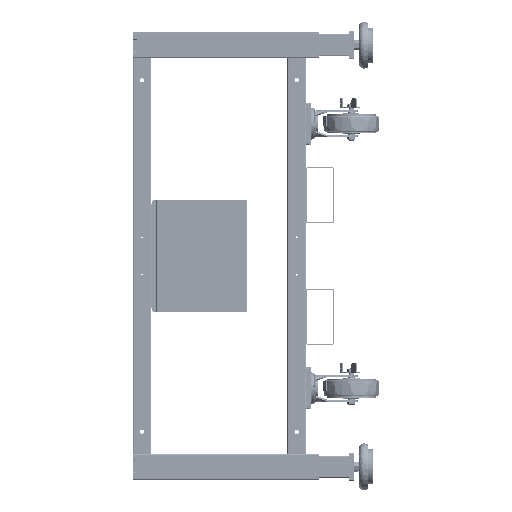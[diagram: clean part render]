
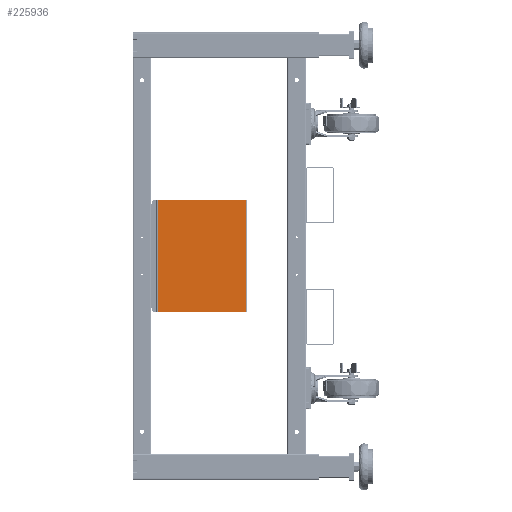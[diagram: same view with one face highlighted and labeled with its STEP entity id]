
A CAD part, front view. The second image highlights one B-rep face of the part: STEP entity #225936.
In plain terms, the highlighted planar face has unit normal (0, -1, 0).
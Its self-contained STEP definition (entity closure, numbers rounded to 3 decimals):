
#6474 = DIRECTION ( 'NONE',  ( 1., 0., 0. ) ) ;
#20639 = VERTEX_POINT ( 'NONE', #238128 ) ;
#23203 = CARTESIAN_POINT ( 'NONE',  ( -180.406, 926.74, 1182.914 ) ) ;
#24284 = VERTEX_POINT ( 'NONE', #45439 ) ;
#26677 = LINE ( 'NONE', #84985, #98543 ) ;
#34915 = DIRECTION ( 'NONE',  ( 0., 1., 0. ) ) ;
#38806 = CARTESIAN_POINT ( 'NONE',  ( -96.242, 926.74, 1182.914 ) ) ;
#43692 = CARTESIAN_POINT ( 'NONE',  ( -180.406, 926.74, 878.114 ) ) ;
#45439 = CARTESIAN_POINT ( 'NONE',  ( -96.242, 926.74, 878.114 ) ) ;
#46485 = DIRECTION ( 'NONE',  ( 0., 0., -1. ) ) ;
#53419 = FACE_OUTER_BOUND ( 'NONE', #58200, .T. ) ;
#56745 = DIRECTION ( 'NONE',  ( 1., 0., 0. ) ) ;
#58200 = EDGE_LOOP ( 'NONE', ( #122505, #223956, #190007, #211722 ) ) ;
#59215 = LINE ( 'NONE', #23203, #159762 ) ;
#72617 = VERTEX_POINT ( 'NONE', #177277 ) ;
#84985 = CARTESIAN_POINT ( 'NONE',  ( 145.373, 926.74, 1182.914 ) ) ;
#92296 = EDGE_CURVE ( 'NONE', #72617, #217315, #59215, .T. ) ;
#93762 = VECTOR ( 'NONE', #187934, 1000. ) ;
#94388 = PLANE ( 'NONE',  #163420 ) ;
#98543 = VECTOR ( 'NONE', #46485, 1000. ) ;
#122505 = ORIENTED_EDGE ( 'NONE', *, *, #166931, .F. ) ;
#123161 = VECTOR ( 'NONE', #6474, 1000. ) ;
#138053 = LINE ( 'NONE', #43692, #123161 ) ;
#149408 = LINE ( 'NONE', #38806, #93762 ) ;
#151640 = CARTESIAN_POINT ( 'NONE',  ( -180.406, 926.74, 1182.914 ) ) ;
#159762 = VECTOR ( 'NONE', #56745, 1000. ) ;
#163420 = AXIS2_PLACEMENT_3D ( 'NONE', #151640, #34915, #184012 ) ;
#166931 = EDGE_CURVE ( 'NONE', #24284, #72617, #149408, .T. ) ;
#170874 = EDGE_CURVE ( 'NONE', #24284, #20639, #138053, .T. ) ;
#177277 = CARTESIAN_POINT ( 'NONE',  ( -96.242, 926.74, 1182.914 ) ) ;
#184012 = DIRECTION ( 'NONE',  ( -1., 0., 0. ) ) ;
#187934 = DIRECTION ( 'NONE',  ( 0., 0., 1. ) ) ;
#190007 = ORIENTED_EDGE ( 'NONE', *, *, #224204, .F. ) ;
#211722 = ORIENTED_EDGE ( 'NONE', *, *, #92296, .F. ) ;
#217315 = VERTEX_POINT ( 'NONE', #236839 ) ;
#223956 = ORIENTED_EDGE ( 'NONE', *, *, #170874, .T. ) ;
#224204 = EDGE_CURVE ( 'NONE', #217315, #20639, #26677, .T. ) ;
#225936 = ADVANCED_FACE ( 'NONE', ( #53419 ), #94388, .F. ) ;
#236839 = CARTESIAN_POINT ( 'NONE',  ( 145.373, 926.74, 1182.914 ) ) ;
#238128 = CARTESIAN_POINT ( 'NONE',  ( 145.373, 926.74, 878.114 ) ) ;
